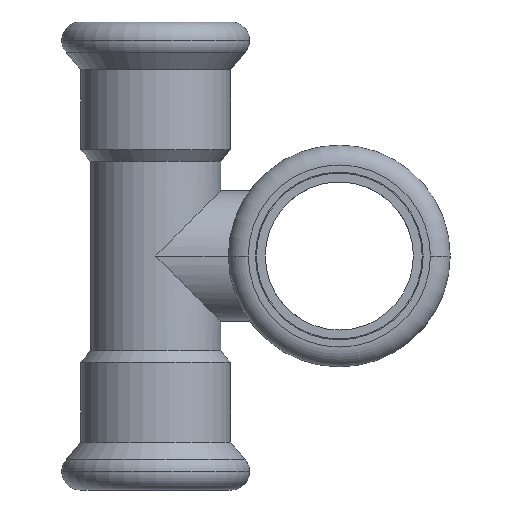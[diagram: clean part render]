
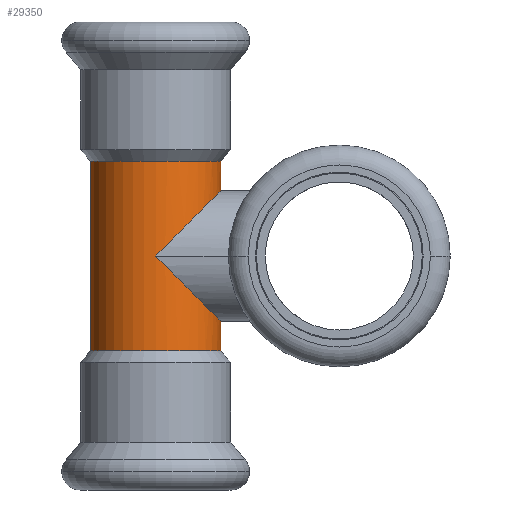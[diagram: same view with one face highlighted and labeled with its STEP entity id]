
A CAD part, front view. The second image highlights one B-rep face of the part: STEP entity #29350.
In plain terms, the highlighted cylindrical face has radius 11 mm (diameter 22 mm), a partial arc.
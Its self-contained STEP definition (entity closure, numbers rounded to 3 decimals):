
#2120=CARTESIAN_POINT('',(-308.291,41.435,0.));
#2130=VERTEX_POINT('',#2120);
#2210=CARTESIAN_POINT('',(-330.291,41.435,
0.));
#2220=VERTEX_POINT('',#2210);
#2250=CARTESIAN_POINT('',(-319.291,41.435,0.));
#2260=DIRECTION('',(0.,1.,0.));
#2270=DIRECTION('',(1.,0.,0.));
#2280=AXIS2_PLACEMENT_3D('',#2250,#2260,#2270);
#2290=CIRCLE('',#2280,11.);
#2440=CARTESIAN_POINT('',(-330.291,9.435,0.));
#2450=VERTEX_POINT('',#2440);
#2630=CARTESIAN_POINT('',(-308.291,9.435,
0.));
#2640=VERTEX_POINT('',#2630);
#2670=CARTESIAN_POINT('',(-319.291,9.435,0.));
#2680=DIRECTION('',(0.,-1.,0.));
#2690=DIRECTION('',(-1.,0.,0.));
#2700=AXIS2_PLACEMENT_3D('',#2670,#2680,#2690);
#2710=CIRCLE('',#2700,11.);
#11120=CARTESIAN_POINT('',(-319.291,25.435,0.));
#11130=DIRECTION('',(-0.707,-0.707,0.));
#11140=DIRECTION('',(0.707,-0.707,0.));
#11150=AXIS2_PLACEMENT_3D('',#11120,#11130,#11140);
#11160=ELLIPSE('',#11150,15.556,11.);
#11170=CARTESIAN_POINT('',(-308.291,14.435,0.));
#11180=VERTEX_POINT('',#11170);
#11210=CARTESIAN_POINT('',(-319.291,25.435,11.));
#11220=VERTEX_POINT('',#11210);
#11230=EDGE_CURVE('',#11180,#11220,#11160,.T.);
#23350=CARTESIAN_POINT('',(-319.291,9.435,0.));
#23360=DIRECTION('',(0.,-1.,0.));
#23370=DIRECTION('',(1.,0.,0.));
#23380=AXIS2_PLACEMENT_3D('',#23350,#23360,#23370);
#23390=CYLINDRICAL_SURFACE('',#23380,11.);
#23400=CARTESIAN_POINT('',(-308.291,9.435,0.));
#23410=DIRECTION('',(0.,-1.,0.));
#23420=VECTOR('',#23410,1.);
#23430=LINE('',#23400,#23420);
#23440=EDGE_CURVE('',#11180,#2640,#23430,.T.);
#23470=CARTESIAN_POINT('',(-319.291,25.435,0.));
#23480=DIRECTION('',(0.707,-0.707,0.));
#23490=DIRECTION('',(-0.707,-0.707,0.));
#23500=AXIS2_PLACEMENT_3D('',#23470,#23480,#23490);
#23510=ELLIPSE('',#23500,15.556,11.);
#23520=CARTESIAN_POINT('',(-308.291,36.435,0.));
#23530=VERTEX_POINT('',#23520);
#23560=EDGE_CURVE('',#2130,#23530,#23430,.T.);
#23590=CARTESIAN_POINT('',(-330.291,9.435,
0.));
#23600=DIRECTION('',(0.,-1.,0.));
#23610=VECTOR('',#23600,1.);
#23620=LINE('',#23590,#23610);
#23630=EDGE_CURVE('',#2220,#2450,#23620,.T.);
#27680=EDGE_CURVE('',#23530,#11220,#23510,.T.);
#28630=EDGE_CURVE('',#2220,#2130,#2290,.T.);
#28990=EDGE_CURVE('',#2640,#2450,#2710,.T.);
#29260=ORIENTED_EDGE('',*,*,#23440,.F.);
#29270=ORIENTED_EDGE('',*,*,#28990,.F.);
#29280=ORIENTED_EDGE('',*,*,#23630,.T.);
#29290=ORIENTED_EDGE('',*,*,#28630,.F.);
#29300=ORIENTED_EDGE('',*,*,#23560,.F.);
#29310=ORIENTED_EDGE('',*,*,#27680,.F.);
#29320=ORIENTED_EDGE('',*,*,#11230,.T.);
#29330=EDGE_LOOP('',(#29320,#29310,#29300,#29290,#29280,#29270,#29260));
#29340=FACE_OUTER_BOUND('',#29330,.T.);
#29350=ADVANCED_FACE('',(#29340),#23390,.T.);
